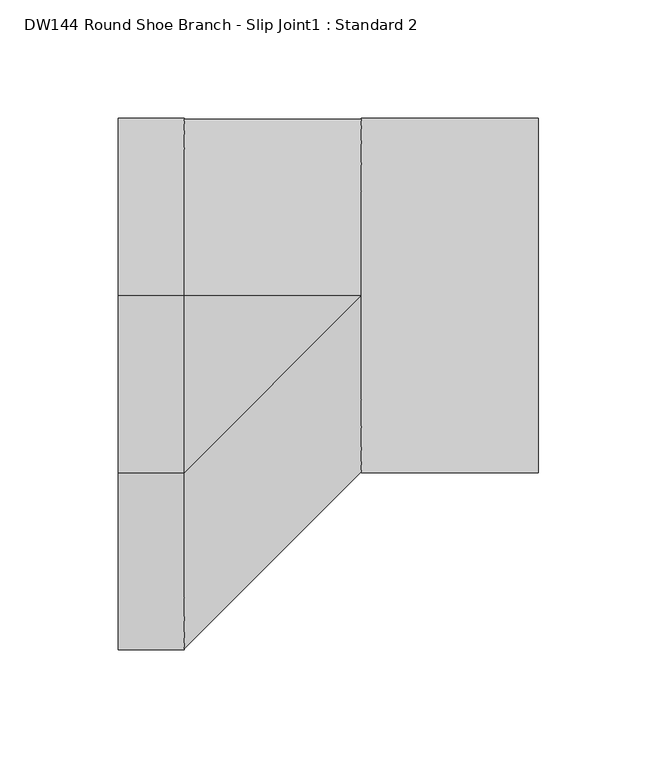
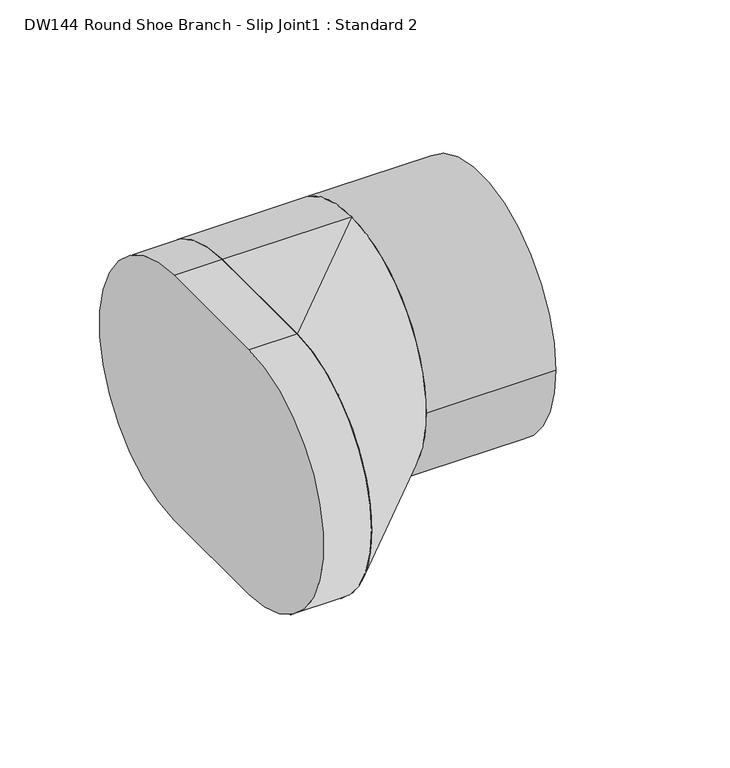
"""IFC4 building model written with IfcOpenShell, lengths in millimetres: duct fitting geometry, DW144 Round Shoe Branch - Slip Joint1 : Standard 2."""

from ifc_helpers import new_model, si_unit, point, frame, frame_2d, origin, origin_2d, place, context, project, spatial, polyline, circle_curve, trimmed, segment, composite_curve, outline, extrude, source, transform, mapped, element, save
from ifc_brep_helpers import plane_surface, cylinder_surface, extruded_surface, advanced_brep


def dw144_round_shoe_branch_slip_joint1_standard_2_42b697ed(model_context):
    return source(origin(), model_context, "Body", "SolidModel", [
        extrude(outline(composite_curve([segment(trimmed(circle_curve(origin_2d(), 75.0), [point((-75.0, 0.0))], [point((75.0, 0.0))], False, "CARTESIAN"), True, "CONTINUOUS"), segment(trimmed(circle_curve(origin_2d(), 75.0), [point((75.0, 0.0))], [point((-75.0, 0.0))], False, "CARTESIAN"), True, "CONTINUOUS")], self_intersect=False)), frame((75.0, 0.0, 0.0), z_axis=(1.0, 0.0, 0.0), x_axis=(0.0, 1.0, 0.0)), (0.0, 0.0, 1.0), 75.0),
        advanced_brep(
        [(75.0, 0.0, -75.0), (75.0, 0.0, 75.0), (0.0, 0.0, -75.0), (0.0, -75.0, -75.0), (0.0, -75.0, 75.0), (0.0, 0.0, 75.0)],
        [
            (0, 1, circle_curve(frame((75.0, 0.0, 0.0), z_axis=(1.0, 0.0, 0.0), x_axis=(0.0, 1.0, 0.0)), 75.0)),
            (1, 0, circle_curve(frame((75.0, 0.0, 0.0), z_axis=(1.0, 0.0, 0.0), x_axis=(0.0, 1.0, 0.0)), 75.0)),
            (2, 3),
            (3, 4, circle_curve(frame((0.0, -75.0, 0.0), z_axis=(-1.0, 0.0, 0.0), x_axis=(0.0, 1.0, 0.0)), 75.0)),
            (4, 5),
            (5, 2, circle_curve(frame((0.0, 0.0, 0.0), z_axis=(-1.0, 0.0, 0.0), x_axis=(0.0, 1.0, 0.0)), 75.0)),
            (5, 1),
            (0, 2),
            (4, 1),
            (3, 0),
        ],
        [
            plane_surface(frame((75.0, 0.0, 0.0), z_axis=(1.0, 0.0, 0.0), x_axis=(0.0, 1.0, 0.0))),
            plane_surface(frame((0.0, -37.5, 0.0), z_axis=(-1.0, 0.0, 0.0), x_axis=(0.0, 1.0, 0.0))),
            cylinder_surface(frame((0.0, 0.0, 0.0), z_axis=(1.0, 0.0, 0.0), x_axis=(0.0, 1.0, 0.0)), 75.0),
            plane_surface(frame((0.0, -37.5, 75.0), z_axis=(0.0, 0.0, 1.0), x_axis=(0.0, -1.0, 0.0))),
            extruded_surface(trimmed(circle_curve(frame((0.0, -75.0, 0.0), z_axis=(1.0, 0.0, 0.0), x_axis=(0.0, 1.0, 0.0)), 75.0), [point((0.0, -75.0, 75.0))], [point((0.0, -75.0, -75.0))], True, "CARTESIAN"), (75.0, 75.0, 0.0), 106.06601717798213),
            plane_surface(frame((0.0, -37.5, -75.0), z_axis=(0.0, 0.0, -1.0), x_axis=(0.0, 1.0, 0.0))),
        ],
        [
            (0, [[1, 2]]),
            (1, [[3, 4, 5, 6]]),
            (2, [[-6, 7, -1, 8]]),
            (3, [[-5, 9, -7]]),
            (4, [[-4, 10, -2, -9]]),
            (5, [[-3, -8, -10]]),
        ],
    ),
        extrude(outline(composite_curve([segment(polyline([(0.0, -75.0), (-75.0, -75.0)]), True, "CONTINUOUS"), segment(trimmed(circle_curve(frame_2d((-75.0, 0.0)), 75.0), [point((-75.0, -75.0))], [point((-75.0, 75.0))], False, "CARTESIAN"), True, "CONTINUOUS"), segment(polyline([(-75.0, 75.0), (0.0, 75.0)]), True, "CONTINUOUS"), segment(trimmed(circle_curve(origin_2d(), 75.0), [point((0.0, 75.0))], [point((0.0, -75.0))], False, "CARTESIAN"), True, "CONTINUOUS")], self_intersect=False)), frame((-27.8800958, 0.0, 0.0), z_axis=(1.0, 0.0, 0.0), x_axis=(0.0, 1.0, 0.0)), (0.0, 0.0, 1.0), 27.8800958),
    ])


if __name__ == "__main__":
    model = new_model("IFC4")
    model_context = context("Model", 3, world=origin())
    ifc_project = project(units=[si_unit("LENGTHUNIT", "METRE", prefix="MILLI")], contexts=[model_context])
    site = spatial("IfcSite", under=ifc_project)
    building = spatial("IfcBuilding", under=site)
    placement = place(None, origin())
    dw144_round_shoe_branch_slip_joint1_standard_2_shape = dw144_round_shoe_branch_slip_joint1_standard_2_42b697ed(model_context)
    element("IfcDuctFitting", 1, ObjectType="DW144 Round Shoe Branch - Slip Joint1 : Standard 2", at=placement, inside=building, context=model_context, shape_type="MappedRepresentation", body=[
        mapped(dw144_round_shoe_branch_slip_joint1_standard_2_shape, transform((0.0, 0.0, 0.0), x_axis=(1.0, 0.0, 0.0), y_axis=(0.0, 1.0, 0.0), z_axis=(0.0, 0.0, 1.0))),
    ])
    save(model, "model.ifc")
